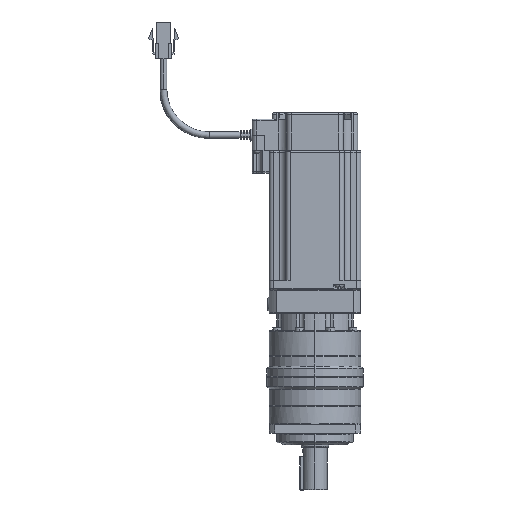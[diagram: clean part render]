
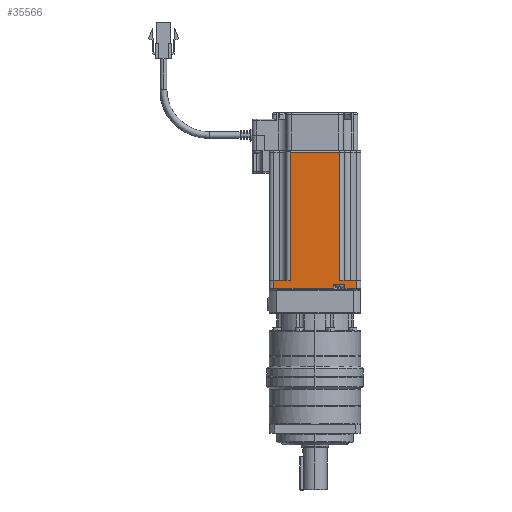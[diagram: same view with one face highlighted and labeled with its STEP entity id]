
A CAD part, left-side view. The second image highlights one B-rep face of the part: STEP entity #35566.
In plain terms, the highlighted planar face has unit normal (-1, 0, 0) as drawn and (1, 0, 0) by its records, which use the part's own axes.
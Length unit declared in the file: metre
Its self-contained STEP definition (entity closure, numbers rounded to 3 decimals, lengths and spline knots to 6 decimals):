
#3956 = CARTESIAN_POINT ( 'NONE',  ( 0.092176, 0.158692, -0.211 ) ) ;
#3980 = CARTESIAN_POINT ( 'NONE',  ( 0.092176, 0.212692, -0.211 ) ) ;
#4034 = CARTESIAN_POINT ( 'NONE',  ( 0.092176, 0.169392, -0.2057 ) ) ;
#4045 = CARTESIAN_POINT ( 'NONE',  ( 0.092176, 0.158692, -0.2057 ) ) ;
#4051 = CARTESIAN_POINT ( 'NONE',  ( 0.092176, 0.205292, -0.2085 ) ) ;
#4140 = CARTESIAN_POINT ( 'NONE',  ( 0.092176, 0.197892, -0.2085 ) ) ;
#4142 = CARTESIAN_POINT ( 'NONE',  ( 0.092176, 0.205292, -0.211 ) ) ;
#4149 = CARTESIAN_POINT ( 'NONE',  ( 0.092176, 0.212692, -0.2057 ) ) ;
#4156 = CARTESIAN_POINT ( 'NONE',  ( 0.092176, 0.201992, -0.2057 ) ) ;
#4189 = CARTESIAN_POINT ( 'NONE',  ( 0.092176, 0.201992, -0.122 ) ) ;
#4194 = CARTESIAN_POINT ( 'NONE',  ( 0.092176, 0.169392, -0.122 ) ) ;
#9876 = CARTESIAN_POINT ( 'NONE',  ( 0.092176, 0.155692, -0.212 ) ) ;
#9887 = PLANE ( 'NONE',  #47507 ) ;
#9893 = DIRECTION ( 'NONE',  ( 1., 0., 0. ) ) ;
#9894 = DIRECTION ( 'NONE',  ( 0., 1., 0. ) ) ;
#13295 = FACE_OUTER_BOUND ( 'NONE', #28283, .T. ) ;
#15259 = EDGE_CURVE ( 'NONE', #42859, #42865, #27388, .T. ) ;
#15268 = EDGE_CURVE ( 'NONE', #42865, #42816, #27402, .T. ) ;
#15270 = EDGE_CURVE ( 'NONE', #42816, #30836, #27406, .T. ) ;
#15271 = EDGE_CURVE ( 'NONE', #30836, #35942, #27407, .T. ) ;
#15274 = EDGE_CURVE ( 'NONE', #35942, #42869, #27413, .T. ) ;
#15276 = EDGE_CURVE ( 'NONE', #42869, #35943, #27417, .T. ) ;
#15277 = EDGE_CURVE ( 'NONE', #35943, #42829, #27418, .T. ) ;
#15279 = EDGE_CURVE ( 'NONE', #42829, #35941, #27398, .T. ) ;
#15287 = EDGE_CURVE ( 'NONE', #35941, #35949, #27433, .T. ) ;
#15323 = EDGE_CURVE ( 'NONE', #35972, #42859, #27495, .T. ) ;
#15325 = EDGE_CURVE ( 'NONE', #35969, #35949, #27498, .T. ) ;
#15326 = EDGE_CURVE ( 'NONE', #35972, #35969, #27503, .T. ) ;
#23166 = CARTESIAN_POINT ( 'NONE',  ( 0.092176, 0.197892, -0.211 ) ) ;
#27388 = LINE ( 'NONE', #47590, #27391 ) ;
#27391 = VECTOR ( 'NONE', #47592, 1. ) ;
#27398 = LINE ( 'NONE', #47636, #27424 ) ;
#27402 = LINE ( 'NONE', #47614, #27405 ) ;
#27405 = VECTOR ( 'NONE', #47615, 1. ) ;
#27406 = LINE ( 'NONE', #47609, #27408 ) ;
#27407 = LINE ( 'NONE', #47621, #27410 ) ;
#27408 = VECTOR ( 'NONE', #47610, 1. ) ;
#27410 = VECTOR ( 'NONE', #47622, 1. ) ;
#27413 = LINE ( 'NONE', #47627, #27416 ) ;
#27416 = VECTOR ( 'NONE', #47628, 1. ) ;
#27417 = LINE ( 'NONE', #47616, #27419 ) ;
#27418 = LINE ( 'NONE', #47633, #27421 ) ;
#27419 = VECTOR ( 'NONE', #47617, 1. ) ;
#27421 = VECTOR ( 'NONE', #47634, 1. ) ;
#27424 = VECTOR ( 'NONE', #47629, 1. ) ;
#27433 = LINE ( 'NONE', #47655, #27437 ) ;
#27437 = VECTOR ( 'NONE', #47653, 1. ) ;
#27495 = LINE ( 'NONE', #47730, #27501 ) ;
#27498 = LINE ( 'NONE', #47740, #27504 ) ;
#27501 = VECTOR ( 'NONE', #47738, 1. ) ;
#27503 = LINE ( 'NONE', #47744, #27506 ) ;
#27504 = VECTOR ( 'NONE', #47736, 1. ) ;
#27506 = VECTOR ( 'NONE', #47746, 1. ) ;
#28283 = EDGE_LOOP ( 'NONE', ( #43278, #43279, #43280, #43281, #43282, #43283, #43284, #43285, #43286, #43287, #43288, #43289 ) ) ;
#30836 = VERTEX_POINT ( 'NONE', #23166 ) ;
#35566 = ADVANCED_FACE ( 'NONE', ( #13295 ), #9887, .T. ) ;
#35941 = VERTEX_POINT ( 'NONE', #4149 ) ;
#35942 = VERTEX_POINT ( 'NONE', #4140 ) ;
#35943 = VERTEX_POINT ( 'NONE', #4142 ) ;
#35949 = VERTEX_POINT ( 'NONE', #4156 ) ;
#35969 = VERTEX_POINT ( 'NONE', #4189 ) ;
#35972 = VERTEX_POINT ( 'NONE', #4194 ) ;
#42816 = VERTEX_POINT ( 'NONE', #3956 ) ;
#42829 = VERTEX_POINT ( 'NONE', #3980 ) ;
#42859 = VERTEX_POINT ( 'NONE', #4034 ) ;
#42865 = VERTEX_POINT ( 'NONE', #4045 ) ;
#42869 = VERTEX_POINT ( 'NONE', #4051 ) ;
#43278 = ORIENTED_EDGE ( 'NONE', *, *, #15287, .T. ) ;
#43279 = ORIENTED_EDGE ( 'NONE', *, *, #15325, .F. ) ;
#43280 = ORIENTED_EDGE ( 'NONE', *, *, #15326, .F. ) ;
#43281 = ORIENTED_EDGE ( 'NONE', *, *, #15323, .T. ) ;
#43282 = ORIENTED_EDGE ( 'NONE', *, *, #15259, .T. ) ;
#43283 = ORIENTED_EDGE ( 'NONE', *, *, #15268, .T. ) ;
#43284 = ORIENTED_EDGE ( 'NONE', *, *, #15270, .T. ) ;
#43285 = ORIENTED_EDGE ( 'NONE', *, *, #15271, .T. ) ;
#43286 = ORIENTED_EDGE ( 'NONE', *, *, #15274, .T. ) ;
#43287 = ORIENTED_EDGE ( 'NONE', *, *, #15276, .T. ) ;
#43288 = ORIENTED_EDGE ( 'NONE', *, *, #15277, .T. ) ;
#43289 = ORIENTED_EDGE ( 'NONE', *, *, #15279, .T. ) ;
#47507 = AXIS2_PLACEMENT_3D ( 'NONE', #9876, #9893, #9894 ) ;
#47590 = CARTESIAN_POINT ( 'NONE',  ( 0.092176, 0.185692, -0.2057 ) ) ;
#47592 = DIRECTION ( 'NONE',  ( 0., -1., 0. ) ) ;
#47609 = CARTESIAN_POINT ( 'NONE',  ( 0.092176, 0.185692, -0.211 ) ) ;
#47610 = DIRECTION ( 'NONE',  ( 0., 1., 0. ) ) ;
#47614 = CARTESIAN_POINT ( 'NONE',  ( 0.092176, 0.158692, -0.1665 ) ) ;
#47615 = DIRECTION ( 'NONE',  ( 0., 0., -1. ) ) ;
#47616 = CARTESIAN_POINT ( 'NONE',  ( 0.092176, 0.205292, -0.1665 ) ) ;
#47617 = DIRECTION ( 'NONE',  ( 0., 0., -1. ) ) ;
#47621 = CARTESIAN_POINT ( 'NONE',  ( 0.092176, 0.197892, -0.1665 ) ) ;
#47622 = DIRECTION ( 'NONE',  ( 0., 0., 1. ) ) ;
#47627 = CARTESIAN_POINT ( 'NONE',  ( 0.092176, 0.185692, -0.2085 ) ) ;
#47628 = DIRECTION ( 'NONE',  ( 0., 1., 0. ) ) ;
#47629 = DIRECTION ( 'NONE',  ( 0., 0., 1. ) ) ;
#47633 = CARTESIAN_POINT ( 'NONE',  ( 0.092176, 0.185692, -0.211 ) ) ;
#47634 = DIRECTION ( 'NONE',  ( 0., 1., 0. ) ) ;
#47636 = CARTESIAN_POINT ( 'NONE',  ( 0.092176, 0.212692, -0.1665 ) ) ;
#47653 = DIRECTION ( 'NONE',  ( 0., -1., 0. ) ) ;
#47655 = CARTESIAN_POINT ( 'NONE',  ( 0.092176, 0.185692, -0.2057 ) ) ;
#47730 = CARTESIAN_POINT ( 'NONE',  ( 0.092176, 0.169392, -0.1665 ) ) ;
#47736 = DIRECTION ( 'NONE',  ( 0., 0., -1. ) ) ;
#47738 = DIRECTION ( 'NONE',  ( 0., 0., -1. ) ) ;
#47740 = CARTESIAN_POINT ( 'NONE',  ( 0.092176, 0.201992, -0.16335 ) ) ;
#47744 = CARTESIAN_POINT ( 'NONE',  ( 0.092176, 0.185692, -0.122 ) ) ;
#47746 = DIRECTION ( 'NONE',  ( 0., 1., 0. ) ) ;
